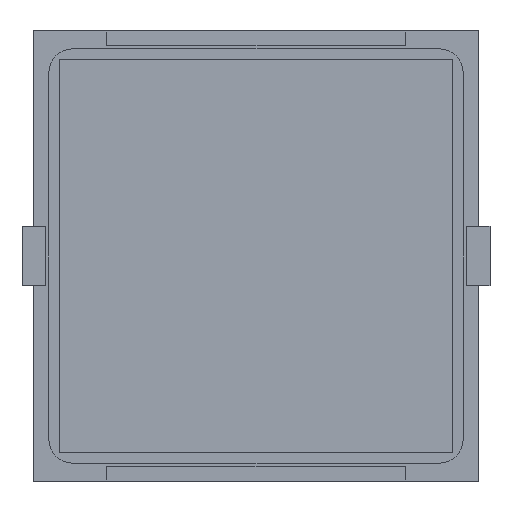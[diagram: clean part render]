
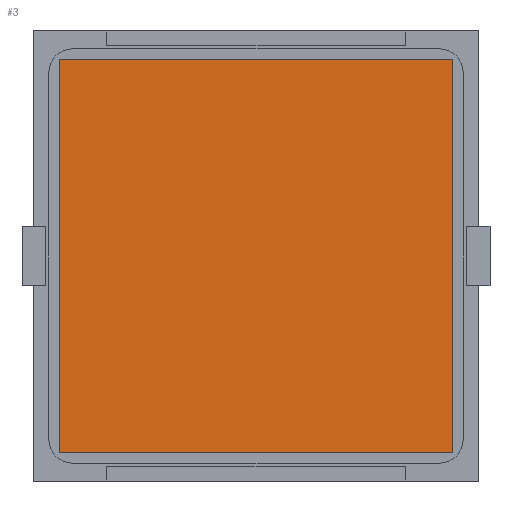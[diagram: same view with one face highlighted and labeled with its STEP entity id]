
A CAD part, front view. The second image highlights one B-rep face of the part: STEP entity #3.
In plain terms, the highlighted planar face has unit normal (0, -1, 0).
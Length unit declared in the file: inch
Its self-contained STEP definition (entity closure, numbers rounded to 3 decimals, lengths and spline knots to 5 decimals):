
#3 = ADVANCED_FACE ( 'NONE', ( #8684 ), #14175, .T. ) ;
#136 = DIRECTION ( 'NONE',  ( 0., -1., 0. ) ) ;
#144 = AXIS2_PLACEMENT_3D ( 'NONE', #11469, #136, #371 ) ;
#190 = EDGE_CURVE ( 'NONE', #11986, #1054, #10975, .T. ) ;
#371 = DIRECTION ( 'NONE',  ( 0., 0., 1. ) ) ;
#400 = ORIENTED_EDGE ( 'NONE', *, *, #190, .T. ) ;
#719 = LINE ( 'NONE', #5824, #9887 ) ;
#1037 = CARTESIAN_POINT ( 'NONE',  ( -0.64961, -0.005, -0.64961 ) ) ;
#1054 = VERTEX_POINT ( 'NONE', #8140 ) ;
#1072 = VERTEX_POINT ( 'NONE', #5910 ) ;
#1115 = LINE ( 'NONE', #16110, #14341 ) ;
#2005 = VERTEX_POINT ( 'NONE', #10069 ) ;
#2106 = ORIENTED_EDGE ( 'NONE', *, *, #11022, .T. ) ;
#2219 = VECTOR ( 'NONE', #10544, 39.37008 ) ;
#5269 = ORIENTED_EDGE ( 'NONE', *, *, #15621, .T. ) ;
#5752 = DIRECTION ( 'NONE',  ( -1., 0., 0. ) ) ;
#5824 = CARTESIAN_POINT ( 'NONE',  ( 0.64961, -0.005, 0.64961 ) ) ;
#5910 = CARTESIAN_POINT ( 'NONE',  ( 0.64961, -0.005, 0.64961 ) ) ;
#6723 = CARTESIAN_POINT ( 'NONE',  ( -0.64961, -0.005, 0.64961 ) ) ;
#7142 = VECTOR ( 'NONE', #9808, 39.37008 ) ;
#8140 = CARTESIAN_POINT ( 'NONE',  ( -0.64961, -0.005, -0.64961 ) ) ;
#8684 = FACE_OUTER_BOUND ( 'NONE', #10905, .T. ) ;
#9808 = DIRECTION ( 'NONE',  ( 0., 0., -1. ) ) ;
#9887 = VECTOR ( 'NONE', #5752, 39.37008 ) ;
#10069 = CARTESIAN_POINT ( 'NONE',  ( 0.64961, -0.005, -0.64961 ) ) ;
#10298 = CARTESIAN_POINT ( 'NONE',  ( 0.64961, -0.005, -0.64961 ) ) ;
#10544 = DIRECTION ( 'NONE',  ( 1., 0., 0. ) ) ;
#10905 = EDGE_LOOP ( 'NONE', ( #11519, #2106, #400, #5269 ) ) ;
#10975 = LINE ( 'NONE', #1037, #7142 ) ;
#11022 = EDGE_CURVE ( 'NONE', #1072, #11986, #719, .T. ) ;
#11469 = CARTESIAN_POINT ( 'NONE',  ( 0.64961, -0.005, 0.64961 ) ) ;
#11519 = ORIENTED_EDGE ( 'NONE', *, *, #14145, .T. ) ;
#11630 = LINE ( 'NONE', #10298, #2219 ) ;
#11986 = VERTEX_POINT ( 'NONE', #6723 ) ;
#14145 = EDGE_CURVE ( 'NONE', #2005, #1072, #1115, .T. ) ;
#14175 = PLANE ( 'NONE',  #144 ) ;
#14341 = VECTOR ( 'NONE', #14910, 39.37008 ) ;
#14910 = DIRECTION ( 'NONE',  ( 0., 0., 1. ) ) ;
#15621 = EDGE_CURVE ( 'NONE', #1054, #2005, #11630, .T. ) ;
#16110 = CARTESIAN_POINT ( 'NONE',  ( 0.64961, -0.005, -0.64961 ) ) ;
